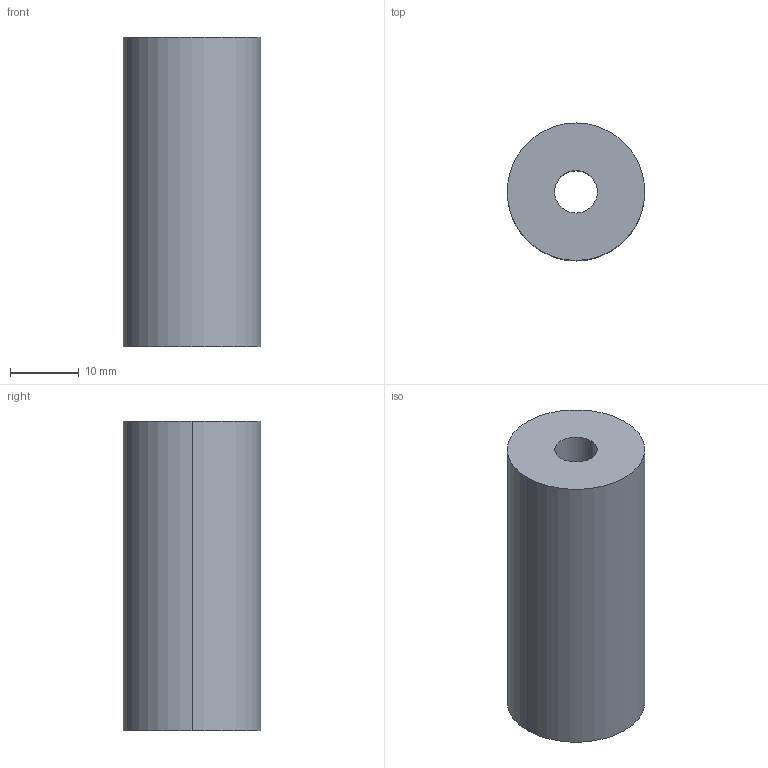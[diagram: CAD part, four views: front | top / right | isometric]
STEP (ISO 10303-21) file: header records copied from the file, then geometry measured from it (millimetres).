
FILE_DESCRIPTION((''),'2;1');
FILE_NAME('0000205723','2024-02-27T13:35:36',('Wyndorps'),(''),'CREO PARAMETRIC BY PTC INC, 2022484','CREO PARAMETRIC BY PTC INC, 2022484','');
FILE_SCHEMA(('CONFIG_CONTROL_DESIGN'));
Length unit declared in the file: millimetre
Products named in the file (1): 0000205723
Bounding box: 20 x 20 x 45 mm (x, y, z)
Volume: 12778.6 mm3; surface area: 4271.9 mm2
Topology: 1 solids, 1 shells, 6 faces, 12 edges, 8 vertices
Faces by surface type: cylinder 4, plane 2
Entity records: 206 total; most frequent: DIRECTION 32, CARTESIAN_POINT 26, ORIENTED_EDGE 24, AXIS2_PLACEMENT_3D 14, EDGE_CURVE 12, VERTEX_POINT 8, EDGE_LOOP 8, CIRCLE 8
